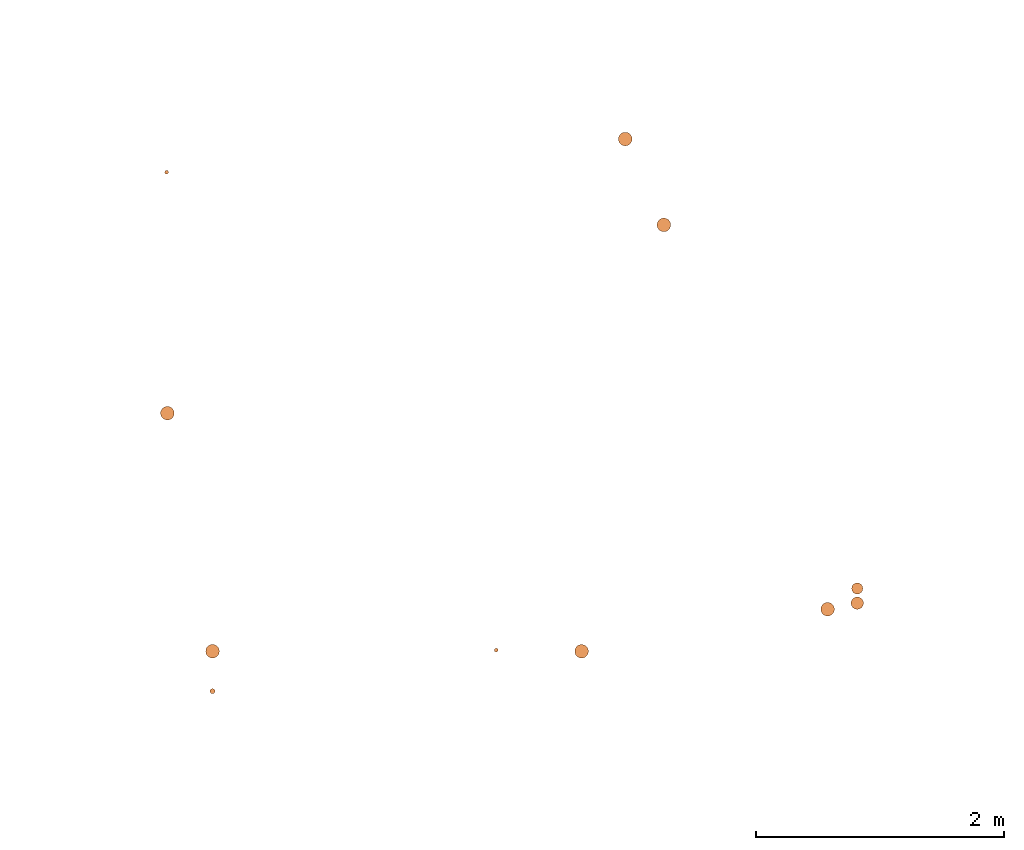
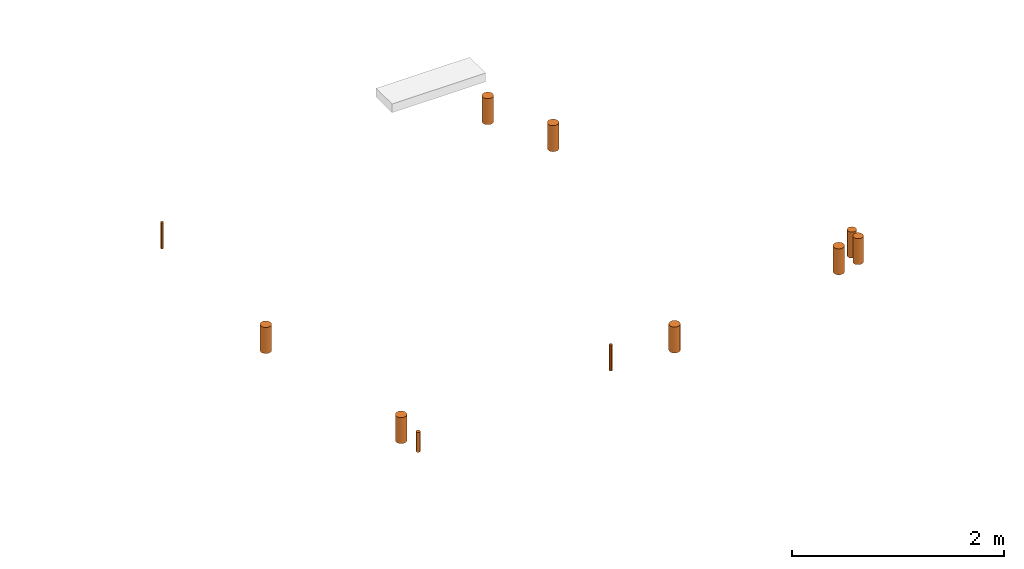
# One storey, part 10 of 16: 11 proxies.
"""IFC2X3 building model written with IfcOpenShell, lengths in centimetres."""

from ifc_helpers import new_model, entity, si_unit, converted_unit, derived_unit, direction, frame, origin, origin_2d_with_axis, place, context, subcontext, project, spatial, circle, extrude, source, transform, mapped, material, type_object, type_shapes, element, save


model = new_model("IFC2X3")

# Units and contexts
model_context = context("Model", 3, precision=0.001, world=origin(), true_north=direction((6.12303176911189e-17, 1.0)))
body_context = subcontext(model_context, "Body", "Model", "MODEL_VIEW")
ifc_project = project(units=[si_unit("LENGTHUNIT", "METRE", prefix="CENTI"), si_unit("AREAUNIT", "SQUARE_METRE"), si_unit("VOLUMEUNIT", "CUBIC_METRE"), converted_unit("PLANEANGLEUNIT", "DEGREE", entity("IfcRatioMeasure", 0.0174532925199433), si_unit("PLANEANGLEUNIT", "RADIAN"), dimensions=[0, 0, 0, 0, 0, 0, 0]), si_unit("MASSUNIT", "GRAM", prefix="KILO"), derived_unit("MASSDENSITYUNIT", [(si_unit("MASSUNIT", "GRAM", prefix="KILO"), 1), (si_unit("LENGTHUNIT", "METRE"), -3)]), si_unit("TIMEUNIT", "SECOND"), si_unit("FREQUENCYUNIT", "HERTZ"), si_unit("THERMODYNAMICTEMPERATUREUNIT", "DEGREE_CELSIUS"), derived_unit("THERMALTRANSMITTANCEUNIT", [(si_unit("MASSUNIT", "GRAM", prefix="KILO"), 1), (si_unit("THERMODYNAMICTEMPERATUREUNIT", "KELVIN"), -1), (si_unit("TIMEUNIT", "SECOND"), -3)]), derived_unit("VOLUMETRICFLOWRATEUNIT", [(si_unit("LENGTHUNIT", "METRE"), 3), (si_unit("TIMEUNIT", "SECOND"), -1)]), si_unit("ELECTRICCURRENTUNIT", "AMPERE"), si_unit("ELECTRICVOLTAGEUNIT", "VOLT"), si_unit("POWERUNIT", "WATT"), si_unit("FORCEUNIT", "NEWTON"), si_unit("ILLUMINANCEUNIT", "LUX"), si_unit("LUMINOUSFLUXUNIT", "LUMEN"), si_unit("LUMINOUSINTENSITYUNIT", "CANDELA"), derived_unit("USERDEFINED", [(si_unit("MASSUNIT", "GRAM", prefix="KILO"), -1), (si_unit("LENGTHUNIT", "METRE"), -2), (si_unit("TIMEUNIT", "SECOND"), 3), (si_unit("LUMINOUSFLUXUNIT", "LUMEN"), 1)]), derived_unit("LINEARVELOCITYUNIT", [(si_unit("LENGTHUNIT", "METRE"), 1), (si_unit("TIMEUNIT", "SECOND"), -1)]), si_unit("PRESSUREUNIT", "PASCAL"), derived_unit("USERDEFINED", [(si_unit("LENGTHUNIT", "METRE"), -2), (si_unit("MASSUNIT", "GRAM", prefix="KILO"), 1), (si_unit("TIMEUNIT", "SECOND"), -2)])], contexts=[model_context])

# Site, building, storey
site_placement = place(None, origin())
site = spatial("IfcSite", under=ifc_project, at=site_placement, Name="Default", CompositionType="ELEMENT")
building_placement = place(site_placement, origin())
building = spatial("IfcBuilding", under=site, at=building_placement, Name="CAGE 03", CompositionType="ELEMENT")
storey_placement = place(building_placement, frame((0.0, 0.0, 65.0)))
storey = spatial("IfcBuildingStorey", under=building, at=storey_placement, Name="Ac RDC", CompositionType="ELEMENT", Elevation=64.9999999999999)

# Proxies
ifc_material = material(Name="BBGO_Résa")
building_element_proxy_type_1 = type_object("IfcBuildingElementProxyType", Name="Ø30", PredefinedType="NOTDEFINED", material=ifc_material)
shared_shape_1 = source(origin(), body_context, "Body", "SweptSolid", [
    extrude(circle(Radius=1.5, at=origin_2d_with_axis()), frame((7498.67225953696, 4853.34941705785, 310.0)), (0.0, 0.0, 1.0), 29.9999999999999),
])
type_shapes(building_element_proxy_type_1, [shared_shape_1])
proxy_1_placement = place(storey_placement, frame((0.0, 0.0, -65.0)))
element("IfcBuildingElementProxy", 1, at=proxy_1_placement, inside=storey, type_object=building_element_proxy_type_1, material=ifc_material, Name="BBGO-Résa circ dalle:Ø30", ObjectType="Ø30", context=body_context, shape_type="MappedRepresentation", body=[
    mapped(shared_shape_1, transform((0.0, 0.0, 0.0), scale=1.0)),
])
building_element_proxy_type_2 = type_object("IfcBuildingElementProxyType", Name="Ø110", PredefinedType="NOTDEFINED", material=ifc_material)
shared_shape_2 = source(origin(), body_context, "Body", "SweptSolid", [
    extrude(circle(Radius=5.5, at=origin_2d_with_axis()), frame((7499.31915529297, 4658.66097151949, 310.0)), (0.0, 0.0, 1.0), 29.9999999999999),
])
type_shapes(building_element_proxy_type_2, [shared_shape_2])
proxy_2_placement = place(storey_placement, frame((0.0, 0.0, -65.0)))
element("IfcBuildingElementProxy", 2, at=proxy_2_placement, inside=storey, type_object=building_element_proxy_type_2, material=ifc_material, Name="BBGO-Résa circ dalle:Ø110", ObjectType="Ø110", context=body_context, shape_type="MappedRepresentation", body=[
    mapped(shared_shape_2, transform((0.0, 0.0, 0.0), scale=1.0)),
])
building_element_proxy_type_3 = type_object("IfcBuildingElementProxyType", Name="Ø110", PredefinedType="NOTDEFINED", material=ifc_material)
shared_shape_3 = source(origin(), body_context, "Body", "SweptSolid", [
    extrude(circle(Radius=5.5, at=origin_2d_with_axis()), frame((7535.77848045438, 4466.36935045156, 310.0)), (0.0, 0.0, 1.0), 29.9999999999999),
])
type_shapes(building_element_proxy_type_3, [shared_shape_3])
proxy_3_placement = place(storey_placement, frame((0.0, 0.0, -65.0)))
element("IfcBuildingElementProxy", 3, at=proxy_3_placement, inside=storey, type_object=building_element_proxy_type_3, material=ifc_material, Name="BBGO-Résa circ dalle:Ø110", ObjectType="Ø110", context=body_context, shape_type="MappedRepresentation", body=[
    mapped(shared_shape_3, transform((0.0, 0.0, 0.0), scale=1.0)),
])
building_element_proxy_type_4 = type_object("IfcBuildingElementProxyType", Name="Ø40", PredefinedType="NOTDEFINED", material=ifc_material)
shared_shape_4 = source(origin(), body_context, "Body", "SweptSolid", [
    extrude(circle(Radius=2.0, at=origin_2d_with_axis()), frame((7535.77027827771, 4434.13727253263, 317.0)), (0.0, 0.0, 1.0), 22.9999999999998),
])
type_shapes(building_element_proxy_type_4, [shared_shape_4])
proxy_4_placement = place(storey_placement, frame((0.0, 0.0, -65.0)))
element("IfcBuildingElementProxy", 4, at=proxy_4_placement, inside=storey, type_object=building_element_proxy_type_4, material=ifc_material, Name="BBGO-Résa circ dalle:Ø40", ObjectType="Ø40", context=body_context, shape_type="MappedRepresentation", body=[
    mapped(shared_shape_4, transform((0.0, 0.0, 0.0), scale=1.0)),
])
building_element_proxy_type_5 = type_object("IfcBuildingElementProxyType", Name="Ø110", PredefinedType="NOTDEFINED", material=ifc_material)
shared_shape_5 = source(origin(), body_context, "Body", "SweptSolid", [
    extrude(circle(Radius=5.5, at=origin_2d_with_axis()), frame((7833.87593286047, 4466.32799996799, 310.0)), (0.0, 0.0, 1.0), 29.9999999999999),
])
type_shapes(building_element_proxy_type_5, [shared_shape_5])
proxy_5_placement = place(storey_placement, frame((0.0, 0.0, -65.0)))
element("IfcBuildingElementProxy", 5, at=proxy_5_placement, inside=storey, type_object=building_element_proxy_type_5, material=ifc_material, Name="BBGO-Résa circ dalle:Ø110", ObjectType="Ø110", context=body_context, shape_type="MappedRepresentation", body=[
    mapped(shared_shape_5, transform((0.0, 0.0, 0.0), scale=1.0)),
])
building_element_proxy_type_6 = type_object("IfcBuildingElementProxyType", Name="Ø30", PredefinedType="NOTDEFINED", material=ifc_material)
shared_shape_6 = source(origin(), body_context, "Body", "SweptSolid", [
    extrude(circle(Radius=1.5, at=origin_2d_with_axis()), frame((7764.86782635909, 4467.30666915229, 310.0)), (0.0, 0.0, 1.0), 29.9999999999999),
])
type_shapes(building_element_proxy_type_6, [shared_shape_6])
proxy_6_placement = place(storey_placement, frame((0.0, 0.0, -65.0)))
element("IfcBuildingElementProxy", 6, at=proxy_6_placement, inside=storey, type_object=building_element_proxy_type_6, material=ifc_material, Name="BBGO-Résa circ dalle:Ø30", ObjectType="Ø30", context=body_context, shape_type="MappedRepresentation", body=[
    mapped(shared_shape_6, transform((0.0, 0.0, 0.0), scale=1.0)),
])
building_element_proxy_type_7 = type_object("IfcBuildingElementProxyType", Name="Ø110", PredefinedType="NOTDEFINED", material=ifc_material)
shared_shape_7 = source(origin(), body_context, "Body", "SweptSolid", [
    extrude(circle(Radius=5.5, at=origin_2d_with_axis()), frame((8032.61430173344, 4500.32488712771, 310.0)), (0.0, 0.0, 1.0), 29.9999999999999),
])
type_shapes(building_element_proxy_type_7, [shared_shape_7])
proxy_7_placement = place(storey_placement, frame((0.0, 0.0, -65.0)))
element("IfcBuildingElementProxy", 7, at=proxy_7_placement, inside=storey, type_object=building_element_proxy_type_7, material=ifc_material, Name="BBGO-Résa circ dalle:Ø110", ObjectType="Ø110", context=body_context, shape_type="MappedRepresentation", body=[
    mapped(shared_shape_7, transform((0.0, 0.0, 0.0), scale=1.0)),
])
building_element_proxy_type_8 = type_object("IfcBuildingElementProxyType", Name="Ø90", PredefinedType="NOTDEFINED", material=ifc_material)
shared_shape_8 = source(origin(), body_context, "Body", "SweptSolid", [
    extrude(circle(Radius=4.5, at=origin_2d_with_axis()), frame((8056.54479855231, 4517.08120139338, 310.0)), (0.0, 0.0, 1.0), 29.9999999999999),
])
type_shapes(building_element_proxy_type_8, [shared_shape_8])
proxy_8_placement = place(storey_placement, frame((0.0, 0.0, -65.0)))
element("IfcBuildingElementProxy", 8, at=proxy_8_placement, inside=storey, type_object=building_element_proxy_type_8, material=ifc_material, Name="BBGO-Résa circ dalle:Ø90", ObjectType="Ø90", context=body_context, shape_type="MappedRepresentation", body=[
    mapped(shared_shape_8, transform((0.0, 0.0, 0.0), scale=1.0)),
])
building_element_proxy_type_9 = type_object("IfcBuildingElementProxyType", Name="Ø100", PredefinedType="NOTDEFINED", material=ifc_material)
shared_shape_9 = source(origin(), body_context, "Body", "SweptSolid", [
    extrude(circle(Radius=5.0, at=origin_2d_with_axis()), frame((8056.54479855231, 4505.23903904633, 310.0)), (0.0, 0.0, 1.0), 29.9999999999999),
])
type_shapes(building_element_proxy_type_9, [shared_shape_9])
proxy_9_placement = place(storey_placement, frame((0.0, 0.0, -65.0)))
element("IfcBuildingElementProxy", 9, at=proxy_9_placement, inside=storey, type_object=building_element_proxy_type_9, material=ifc_material, Name="BBGO-Résa circ dalle:Ø100", ObjectType="Ø100", context=body_context, shape_type="MappedRepresentation", body=[
    mapped(shared_shape_9, transform((0.0, 0.0, 0.0), scale=1.0)),
])
building_element_proxy_type_10 = type_object("IfcBuildingElementProxyType", Name="Ø110", PredefinedType="NOTDEFINED", material=ifc_material)
shared_shape_10 = source(origin(), body_context, "Body", "SweptSolid", [
    extrude(circle(Radius=5.5, at=origin_2d_with_axis()), frame((7900.35981311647, 4810.74512906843, 310.0)), (0.0, 0.0, 1.0), 29.9999999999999),
])
type_shapes(building_element_proxy_type_10, [shared_shape_10])
proxy_10_placement = place(storey_placement, frame((0.0, 0.0, -65.0)))
element("IfcBuildingElementProxy", 10, at=proxy_10_placement, inside=storey, type_object=building_element_proxy_type_10, material=ifc_material, Name="BBGO-Résa circ dalle:Ø110", ObjectType="Ø110", context=body_context, shape_type="MappedRepresentation", body=[
    mapped(shared_shape_10, transform((0.0, 0.0, 0.0), scale=1.0)),
])
building_element_proxy_type_11 = type_object("IfcBuildingElementProxyType", Name="Ø110", PredefinedType="NOTDEFINED", material=ifc_material)
shared_shape_11 = source(origin(), body_context, "Body", "SweptSolid", [
    extrude(circle(Radius=5.5, at=origin_2d_with_axis()), frame((7869.14720305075, 4880.11047994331, 310.0)), (0.0, 0.0, 1.0), 29.9999999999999),
])
type_shapes(building_element_proxy_type_11, [shared_shape_11])
proxy_11_placement = place(storey_placement, frame((0.0, 0.0, -65.0)))
element("IfcBuildingElementProxy", 11, at=proxy_11_placement, inside=storey, type_object=building_element_proxy_type_11, material=ifc_material, Name="BBGO-Résa circ dalle:Ø110", ObjectType="Ø110", context=body_context, shape_type="MappedRepresentation", body=[
    mapped(shared_shape_11, transform((0.0, 0.0, 0.0), scale=1.0)),
])

save(model, "model.ifc")
